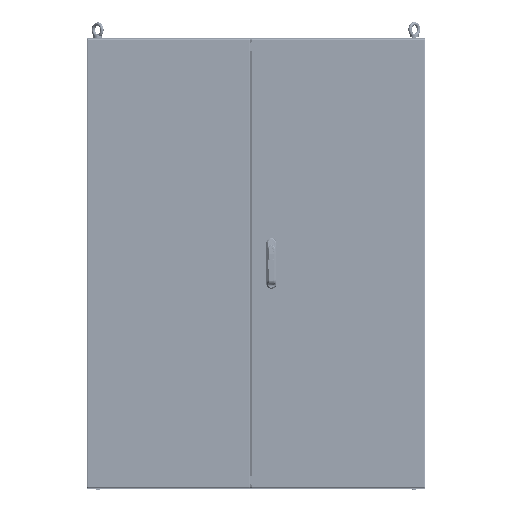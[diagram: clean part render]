
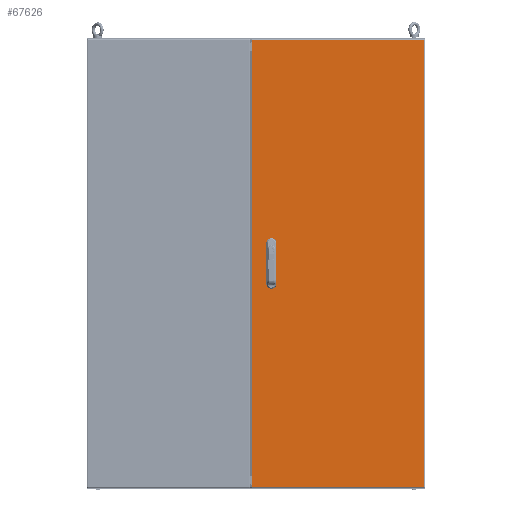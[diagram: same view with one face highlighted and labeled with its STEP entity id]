
A CAD part, front view. The second image highlights one B-rep face of the part: STEP entity #67626.
In plain terms, the highlighted planar face has unit normal (0, -1, 0).
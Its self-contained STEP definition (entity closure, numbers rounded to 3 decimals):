
#22207=ORIENTED_EDGE('',*,*,#32502,.T.);
#22208=ORIENTED_EDGE('',*,*,#32503,.T.);
#22209=ORIENTED_EDGE('',*,*,#32504,.T.);
#22210=ORIENTED_EDGE('',*,*,#32505,.T.);
#22211=ORIENTED_EDGE('',*,*,#32506,.F.);
#22212=ORIENTED_EDGE('',*,*,#32507,.T.);
#22213=ORIENTED_EDGE('',*,*,#32508,.T.);
#22214=ORIENTED_EDGE('',*,*,#32509,.T.);
#22215=ORIENTED_EDGE('',*,*,#32510,.T.);
#22216=ORIENTED_EDGE('',*,*,#32511,.T.);
#22217=ORIENTED_EDGE('',*,*,#32512,.T.);
#22218=ORIENTED_EDGE('',*,*,#32513,.T.);
#32502=EDGE_CURVE('',#39069,#39070,#45232,.T.);
#32503=EDGE_CURVE('',#39070,#39071,#45233,.T.);
#32504=EDGE_CURVE('',#39071,#39072,#45234,.T.);
#32505=EDGE_CURVE('',#39072,#39069,#45235,.T.);
#32506=EDGE_CURVE('',#39073,#39074,#45236,.T.);
#32507=EDGE_CURVE('',#39073,#39075,#45237,.T.);
#32508=EDGE_CURVE('',#39075,#39076,#45238,.T.);
#32509=EDGE_CURVE('',#39076,#39074,#45239,.T.);
#32510=EDGE_CURVE('',#39077,#39078,#45240,.T.);
#32511=EDGE_CURVE('',#39078,#39079,#45241,.T.);
#32512=EDGE_CURVE('',#39079,#39080,#45242,.T.);
#32513=EDGE_CURVE('',#39080,#39077,#45243,.T.);
#39069=VERTEX_POINT('',#120274);
#39070=VERTEX_POINT('',#120275);
#39071=VERTEX_POINT('',#120277);
#39072=VERTEX_POINT('',#120279);
#39073=VERTEX_POINT('',#120282);
#39074=VERTEX_POINT('',#120283);
#39075=VERTEX_POINT('',#120285);
#39076=VERTEX_POINT('',#120287);
#39077=VERTEX_POINT('',#120290);
#39078=VERTEX_POINT('',#120291);
#39079=VERTEX_POINT('',#120293);
#39080=VERTEX_POINT('',#120295);
#45232=LINE('',#120273,#51432);
#45233=LINE('',#120276,#51433);
#45234=LINE('',#120278,#51434);
#45235=LINE('',#120280,#51435);
#45236=LINE('',#120281,#51436);
#45237=LINE('',#120284,#51437);
#45238=LINE('',#120286,#51438);
#45239=LINE('',#120288,#51439);
#45240=LINE('',#120289,#51440);
#45241=LINE('',#120292,#51441);
#45242=LINE('',#120294,#51442);
#45243=LINE('',#120296,#51443);
#51432=VECTOR('',#94418,1000.);
#51433=VECTOR('',#94419,1000.);
#51434=VECTOR('',#94420,1000.);
#51435=VECTOR('',#94421,1000.);
#51436=VECTOR('',#94422,1000.);
#51437=VECTOR('',#94423,1000.);
#51438=VECTOR('',#94424,1000.);
#51439=VECTOR('',#94425,1000.);
#51440=VECTOR('',#94426,1000.);
#51441=VECTOR('',#94427,1000.);
#51442=VECTOR('',#94428,1000.);
#51443=VECTOR('',#94429,1000.);
#56708=EDGE_LOOP('',(#22207,#22208,#22209,#22210));
#56709=EDGE_LOOP('',(#22211,#22212,#22213,#22214));
#56710=EDGE_LOOP('',(#22215,#22216,#22217,#22218));
#61720=FACE_BOUND('',#56708,.T.);
#61721=FACE_BOUND('',#56709,.T.);
#61722=FACE_BOUND('',#56710,.T.);
#64115=PLANE('',#77301);
#67626=ADVANCED_FACE('',(#61720,#61721,#61722),#64115,.F.);
#77301=AXIS2_PLACEMENT_3D('',#120272,#94416,#94417);
#94416=DIRECTION('',(0.,1.,0.));
#94417=DIRECTION('',(1.,0.,0.));
#94418=DIRECTION('',(-1.,0.,0.));
#94419=DIRECTION('',(0.,0.,1.));
#94420=DIRECTION('',(1.,0.,0.));
#94421=DIRECTION('',(0.,0.,-1.));
#94422=DIRECTION('',(1.,0.,0.));
#94423=DIRECTION('',(0.,0.,-1.));
#94424=DIRECTION('',(1.,0.,0.));
#94425=DIRECTION('',(0.,0.,1.));
#94426=DIRECTION('',(-1.,0.,0.));
#94427=DIRECTION('',(0.,0.,1.));
#94428=DIRECTION('',(1.,0.,0.));
#94429=DIRECTION('',(0.,0.,-1.));
#120272=CARTESIAN_POINT('',(0.,-12.75,0.));
#120273=CARTESIAN_POINT('',(44.789,-12.75,-75.));
#120274=CARTESIAN_POINT('',(44.789,-12.75,-75.));
#120275=CARTESIAN_POINT('',(19.789,-12.75,-75.));
#120276=CARTESIAN_POINT('',(19.789,-12.75,-75.));
#120277=CARTESIAN_POINT('',(19.789,-12.75,-25.));
#120278=CARTESIAN_POINT('',(19.789,-12.75,-25.));
#120279=CARTESIAN_POINT('',(44.789,-12.75,-25.));
#120280=CARTESIAN_POINT('',(44.789,-12.75,-25.));
#120281=CARTESIAN_POINT('',(1.043,-12.75,791.7));
#120282=CARTESIAN_POINT('',(-34.911,-12.75,791.7));
#120283=CARTESIAN_POINT('',(573.,-12.75,791.7));
#120284=CARTESIAN_POINT('',(-34.911,-12.75,791.7));
#120285=CARTESIAN_POINT('',(-34.911,-12.75,-791.7));
#120286=CARTESIAN_POINT('',(1.043,-12.75,-791.7));
#120287=CARTESIAN_POINT('',(573.,-12.75,-791.7));
#120288=CARTESIAN_POINT('',(573.,-12.75,0.));
#120289=CARTESIAN_POINT('',(44.789,-12.75,25.));
#120290=CARTESIAN_POINT('',(44.789,-12.75,25.));
#120291=CARTESIAN_POINT('',(19.789,-12.75,25.));
#120292=CARTESIAN_POINT('',(19.789,-12.75,25.));
#120293=CARTESIAN_POINT('',(19.789,-12.75,75.));
#120294=CARTESIAN_POINT('',(19.789,-12.75,75.));
#120295=CARTESIAN_POINT('',(44.789,-12.75,75.));
#120296=CARTESIAN_POINT('',(44.789,-12.75,75.));
